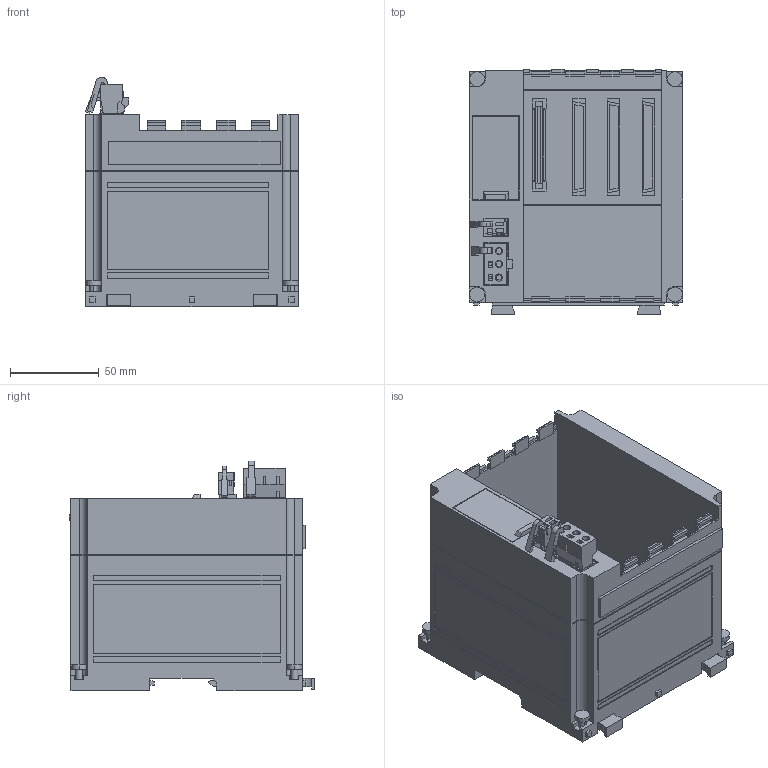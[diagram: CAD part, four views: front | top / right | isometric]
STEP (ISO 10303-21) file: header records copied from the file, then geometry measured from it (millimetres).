
FILE_DESCRIPTION (( 'STEP AP203' ), '1' );
FILE_NAME ('jepmc_bu3303_e.STEP', '2014-02-06T01:21:27', ( '匠エンジニアリング山之内' ), ( 'TAKUMI-Engniaring' ), 'SwSTEP 2.0', 'SolidWorks 2006303', '' );
FILE_SCHEMA (( 'CONFIG_CONTROL_DESIGN' ));
Length unit declared in the file: millimetre
Products named in the file (9): jepmc_bu3303_e; jepmc_bu3303_e_pin1; jepmc_bu3303_e_connector2; jepmc_bu3303_e_base; jepmc_bu3303_e_cover; jepmc_bu3303_e_connector1; jepmc_bu3303_e_pin2
Assembly tree (8 placements, depth 3):
  jepmc_bu3303_e
    jepmc_bu3303_e_base
    jepmc_bu3303_e_connector2
      jepmc_bu3303_e_connector2
      jepmc_bu3303_e_pin2
    jepmc_bu3303_e_connector1
      jepmc_bu3303_e_connector1
      jepmc_bu3303_e_pin1
    jepmc_bu3303_e_cover
Bounding box: 120 x 138 x 128.99 mm (x, y, z)
Volume: 637062.3 mm3; surface area: 156611.5 mm2
Topology: 6 solids, 6 shells, 1056 faces, 2857 edges, 1893 vertices
Faces by surface type: plane 958, cylinder 98
Entity records: 33624 total; most frequent: CARTESIAN_POINT 5819, ORIENTED_EDGE 5714, DIRECTION 5199, EDGE_CURVE 2857, VECTOR 2653, LINE 2653, VERTEX_POINT 1893, AXIS2_PLACEMENT_3D 1273
